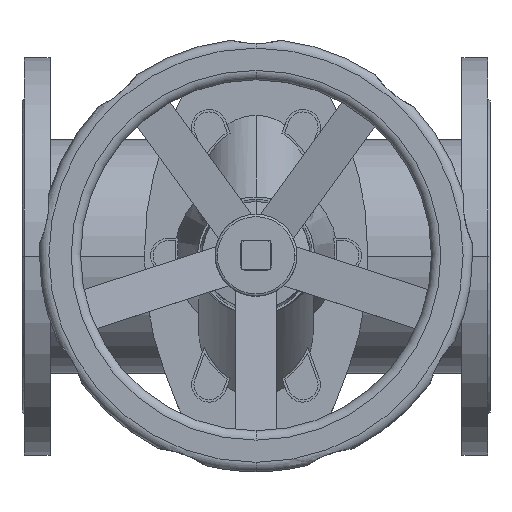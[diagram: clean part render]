
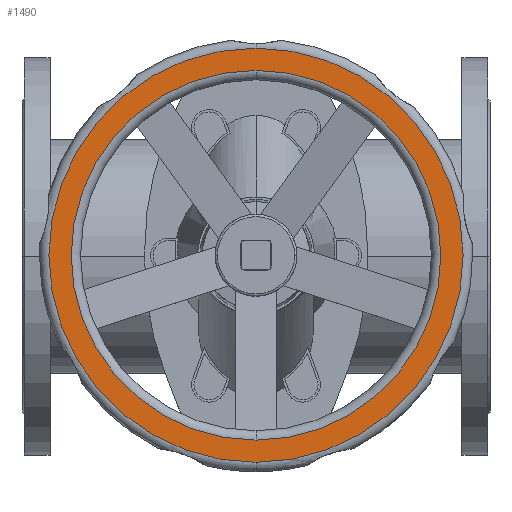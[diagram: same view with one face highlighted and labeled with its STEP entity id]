
A CAD part, top view. The second image highlights one B-rep face of the part: STEP entity #1490.
In plain terms, the highlighted planar face has unit normal (0, 0, 1).
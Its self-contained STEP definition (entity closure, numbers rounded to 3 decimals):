
#1490=ADVANCED_FACE('',(#3083,#3084),#3085,.T.);
#3083=FACE_BOUND('',#5240,.T.);
#3084=FACE_OUTER_BOUND('',#5241,.T.);
#3085=PLANE('',#5242);
#5240=EDGE_LOOP('',(#8060,#8061,#8062));
#5241=EDGE_LOOP('',(#8063,#8064,#8065));
#5242=AXIS2_PLACEMENT_3D('',#8066,#8067,#8068);
#8060=ORIENTED_EDGE('',*,*,#12514,.F.);
#8061=ORIENTED_EDGE('',*,*,#12515,.F.);
#8062=ORIENTED_EDGE('',*,*,#12516,.F.);
#8063=ORIENTED_EDGE('',*,*,#12517,.T.);
#8064=ORIENTED_EDGE('',*,*,#12139,.T.);
#8065=ORIENTED_EDGE('',*,*,#12518,.T.);
#8066=CARTESIAN_POINT('',(32.5,0.,590.0));
#8067=DIRECTION('',(0.,0.,1.0));
#8068=DIRECTION('',(-1.0,0.,0.));
#12139=EDGE_CURVE('',#14483,#14481,#14484,.T.);
#12514=EDGE_CURVE('',#15088,#15089,#15090,.T.);
#12515=EDGE_CURVE('',#15091,#15088,#15092,.T.);
#12516=EDGE_CURVE('',#15089,#15091,#15093,.T.);
#12517=EDGE_CURVE('',#15094,#14483,#15095,.T.);
#12518=EDGE_CURVE('',#14481,#15094,#15096,.T.);
#14481=VERTEX_POINT('',#17694);
#14483=VERTEX_POINT('',#17696);
#14484=CIRCLE('',#17697,177.0);
#15088=VERTEX_POINT('',#18570);
#15089=VERTEX_POINT('',#18571);
#15090=CIRCLE('',#18572,158.0);
#15091=VERTEX_POINT('',#18573);
#15092=CIRCLE('',#18574,158.0);
#15093=CIRCLE('',#18575,158.0);
#15094=VERTEX_POINT('',#18576);
#15095=CIRCLE('',#18577,177.0);
#15096=CIRCLE('',#18578,177.0);
#17694=CARTESIAN_POINT('',(200.0,177.0,590.0));
#17696=CARTESIAN_POINT('',(200.0,-177.0,590.0));
#17697=AXIS2_PLACEMENT_3D('',#21250,#21251,#21252);
#18570=CARTESIAN_POINT('',(42.0,0.,590.0));
#18571=CARTESIAN_POINT('',(200.0,-158.0,590.0));
#18572=AXIS2_PLACEMENT_3D('',#21731,#21732,#21733);
#18573=CARTESIAN_POINT('',(200.0,158.0,590.0));
#18574=AXIS2_PLACEMENT_3D('',#21734,#21735,#21736);
#18575=AXIS2_PLACEMENT_3D('',#21737,#21738,#21739);
#18576=CARTESIAN_POINT('',(23.0,0.,590.0));
#18577=AXIS2_PLACEMENT_3D('',#21740,#21741,#21742);
#18578=AXIS2_PLACEMENT_3D('',#21743,#21744,#21745);
#21250=CARTESIAN_POINT('',(200.0,0.,590.0));
#21251=DIRECTION('',(0.,0.,1.0));
#21252=DIRECTION('',(-1.0,0.,0.));
#21731=CARTESIAN_POINT('',(200.0,0.,590.0));
#21732=DIRECTION('',(0.,0.,1.0));
#21733=DIRECTION('',(-1.0,0.,0.));
#21734=CARTESIAN_POINT('',(200.0,0.,590.0));
#21735=DIRECTION('',(0.,0.,1.0));
#21736=DIRECTION('',(-1.0,0.,0.));
#21737=CARTESIAN_POINT('',(200.0,0.,590.0));
#21738=DIRECTION('',(0.,0.,1.0));
#21739=DIRECTION('',(-1.0,0.,0.));
#21740=CARTESIAN_POINT('',(200.0,0.,590.0));
#21741=DIRECTION('',(0.,0.,1.0));
#21742=DIRECTION('',(-1.0,0.,0.));
#21743=CARTESIAN_POINT('',(200.0,0.,590.0));
#21744=DIRECTION('',(0.,0.,1.0));
#21745=DIRECTION('',(-1.0,0.,0.));
